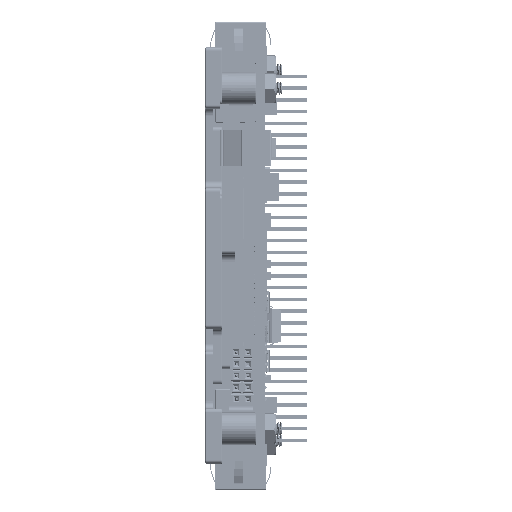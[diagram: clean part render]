
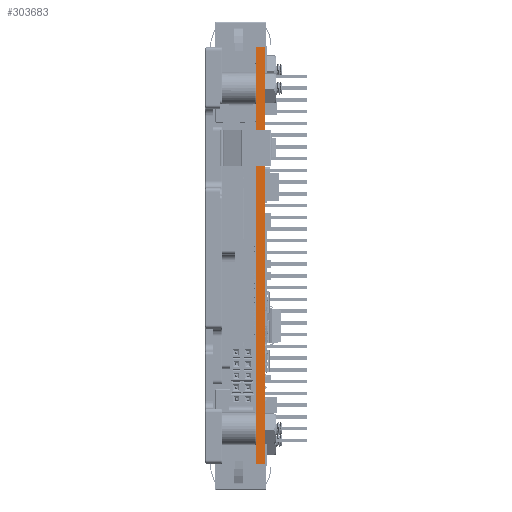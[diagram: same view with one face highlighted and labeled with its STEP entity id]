
A CAD part, left-side view. The second image highlights one B-rep face of the part: STEP entity #303683.
In plain terms, the highlighted planar face has unit normal (-1, 0, 0) as drawn and (0, 1, 0) by its records, which use the part's own axes.
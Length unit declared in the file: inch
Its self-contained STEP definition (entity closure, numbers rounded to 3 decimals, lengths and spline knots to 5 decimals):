
#9381 = CARTESIAN_POINT ( 'NONE',  ( 3.55, 3.775, -0.0742 ) ) ;
#11992 = CARTESIAN_POINT ( 'NONE',  ( 0., 3.775, -0.0742 ) ) ;
#14022 = VERTEX_POINT ( 'NONE', #141987 ) ;
#32271 = CARTESIAN_POINT ( 'NONE',  ( 0., 3.775, 0. ) ) ;
#37896 = ORIENTED_EDGE ( 'NONE', *, *, #369549, .F. ) ;
#42377 = DIRECTION ( 'NONE',  ( 0., 0., -1. ) ) ;
#44572 = VECTOR ( 'NONE', #241662, 39.37008 ) ;
#46246 = VERTEX_POINT ( 'NONE', #288215 ) ;
#60346 = DIRECTION ( 'NONE',  ( 0., 0., 1. ) ) ;
#69654 = EDGE_CURVE ( 'NONE', #46246, #14022, #288457, .T. ) ;
#73924 = PLANE ( 'NONE',  #404891 ) ;
#104507 = VECTOR ( 'NONE', #302721, 39.37008 ) ;
#113742 = VECTOR ( 'NONE', #60346, 39.37008 ) ;
#128123 = DIRECTION ( 'NONE',  ( 1., 0., 0. ) ) ;
#138916 = CARTESIAN_POINT ( 'NONE',  ( 0., 3.775, 0. ) ) ;
#141987 = CARTESIAN_POINT ( 'NONE',  ( 3.55, 3.775, 0. ) ) ;
#155750 = EDGE_CURVE ( 'NONE', #223120, #312147, #296210, .T. ) ;
#223120 = VERTEX_POINT ( 'NONE', #360140 ) ;
#227245 = CARTESIAN_POINT ( 'NONE',  ( 0., 3.775, -0.0742 ) ) ;
#239014 = DIRECTION ( 'NONE',  ( 0., -1., 0. ) ) ;
#241662 = DIRECTION ( 'NONE',  ( 0., 0., 1. ) ) ;
#275565 = LINE ( 'NONE', #227245, #352721 ) ;
#288215 = CARTESIAN_POINT ( 'NONE',  ( 3.55, 3.775, -0.0742 ) ) ;
#288457 = LINE ( 'NONE', #289988, #113742 ) ;
#289988 = CARTESIAN_POINT ( 'NONE',  ( 3.55, 3.775, -0.0742 ) ) ;
#296210 = LINE ( 'NONE', #11992, #44572 ) ;
#302721 = DIRECTION ( 'NONE',  ( -1., 0., 0. ) ) ;
#303683 = ADVANCED_FACE ( 'NONE', ( #416900 ), #73924, .F. ) ;
#312147 = VERTEX_POINT ( 'NONE', #32271 ) ;
#314856 = ORIENTED_EDGE ( 'NONE', *, *, #69654, .F. ) ;
#334737 = ORIENTED_EDGE ( 'NONE', *, *, #155750, .T. ) ;
#349226 = EDGE_CURVE ( 'NONE', #223120, #46246, #275565, .T. ) ;
#352721 = VECTOR ( 'NONE', #128123, 39.37008 ) ;
#355937 = ORIENTED_EDGE ( 'NONE', *, *, #349226, .F. ) ;
#356413 = LINE ( 'NONE', #138916, #104507 ) ;
#360140 = CARTESIAN_POINT ( 'NONE',  ( 0., 3.775, -0.0742 ) ) ;
#369549 = EDGE_CURVE ( 'NONE', #14022, #312147, #356413, .T. ) ;
#380866 = EDGE_LOOP ( 'NONE', ( #334737, #37896, #314856, #355937 ) ) ;
#404891 = AXIS2_PLACEMENT_3D ( 'NONE', #9381, #239014, #42377 ) ;
#416900 = FACE_OUTER_BOUND ( 'NONE', #380866, .T. ) ;
